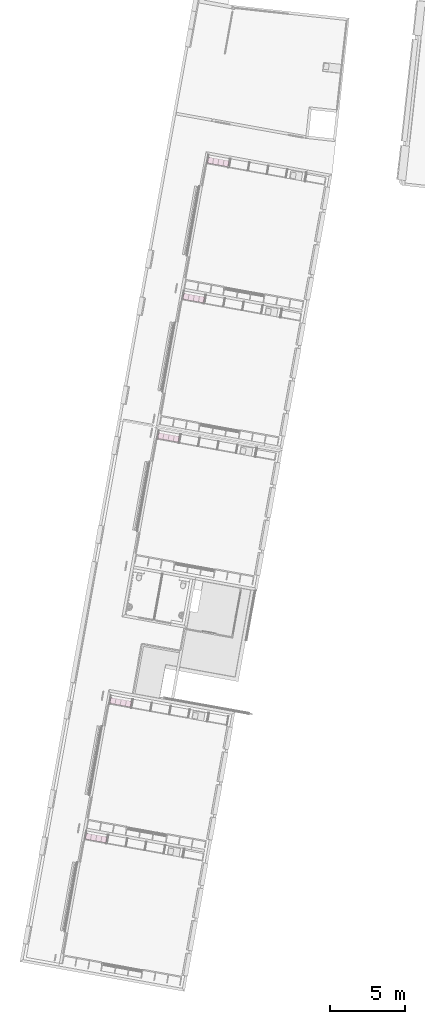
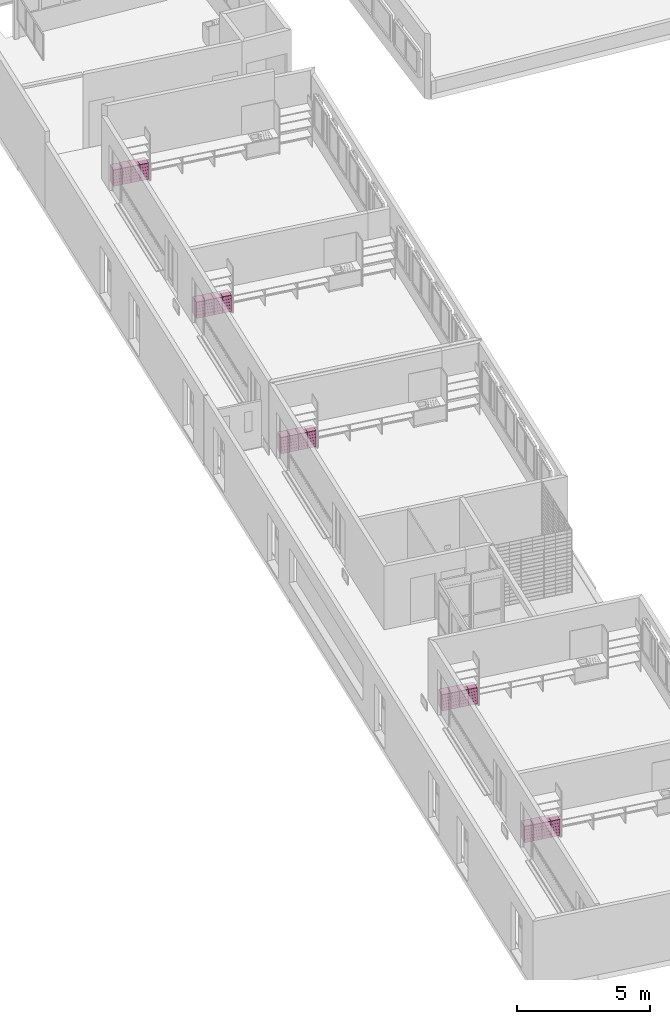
# One storey, part 7 of 52: 20 furnishings.
"""IFC2X3 building model written with IfcOpenShell, lengths in metres."""

from ifc_helpers import new_model, entity, si_unit, converted_unit, derived_unit, money_unit, direction, frame, origin_with_axes, place, context, subcontext, project, spatial, open_shell, faceted_brep, surface_model, source, transform, mapped, material, type_object, element, save


model = new_model("IFC2X3")

# Units and contexts
model_context = context("Model", 3, precision=1e-05, world=origin_with_axes(), true_north=direction((0.0, 1.0)))
body_context = subcontext(model_context, "Body", "Model", "MODEL_VIEW")
ifc_project = project(units=[si_unit("LENGTHUNIT", "METRE"), si_unit("AREAUNIT", "SQUARE_METRE"), si_unit("VOLUMEUNIT", "CUBIC_METRE"), converted_unit("PLANEANGLEUNIT", "DEGREE", entity("IfcPlaneAngleMeasure", 0.0174532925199), si_unit("PLANEANGLEUNIT", "RADIAN"), dimensions=[0, 0, 0, 0, 0, 0, 0]), money_unit("CHF"), converted_unit("TIMEUNIT", "Year", entity("IfcTimeMeasure", 31556926.0), si_unit("TIMEUNIT", "SECOND"), dimensions=[0, 0, 1, 0, 0, 0, 0]), si_unit("MASSUNIT", "GRAM", prefix="KILO"), si_unit("THERMODYNAMICTEMPERATUREUNIT", "DEGREE_CELSIUS"), si_unit("LUMINOUSINTENSITYUNIT", "LUMEN"), si_unit("ENERGYUNIT", "JOULE", prefix="MEGA"), derived_unit("THERMALCONDUCTANCEUNIT", [(si_unit("POWERUNIT", "WATT"), 1), (si_unit("LENGTHUNIT", "METRE"), -1), (si_unit("THERMODYNAMICTEMPERATUREUNIT", "KELVIN"), -1)]), derived_unit("SPECIFICHEATCAPACITYUNIT", [(si_unit("ENERGYUNIT", "JOULE"), 1), (si_unit("MASSUNIT", "GRAM", prefix="KILO"), -1), (si_unit("THERMODYNAMICTEMPERATUREUNIT", "KELVIN"), -1)]), derived_unit("MASSDENSITYUNIT", [(si_unit("MASSUNIT", "GRAM", prefix="KILO"), 1), (si_unit("VOLUMEUNIT", "CUBIC_METRE"), -1)])], contexts=[model_context])

# Site, building, storey
site_placement = place(None, frame((0.0, 0.0, 0.0), z_axis=(0.0, 0.0, 1.0), x_axis=(-0.177771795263, -0.984071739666, 0.0)))
site = spatial("IfcSite", under=ifc_project, at=site_placement, Name="Site", CompositionType="ELEMENT")
building_placement = place(site_placement, origin_with_axes())
building = spatial("IfcBuilding", under=site, at=building_placement, Name="Bâtiment", CompositionType="ELEMENT")
storey_placement = place(building_placement, frame((0.0, 0.0, 3.2), z_axis=(0.0, 0.0, 1.0), x_axis=(1.0, 0.0, 0.0)))
storey = spatial("IfcBuildingStorey", under=building, at=storey_placement, Name="R+1", CompositionType="ELEMENT", Elevation=3.2)

# Furnishings
ifc_material = material(Name="Matériau de construction IFC")
furnishing_element_type = type_object("IfcFurnishingElementType", Name="Caisson à roulettes 3 21")
shared_shape = source(origin_with_axes(), body_context, "Body", "SurfaceModel", [
    surface_model("IfcShellBasedSurfaceModel", [(0.33, 0.02, 0.0), (0.02, 0.02, 0.0), (0.02, 0.4, 0.0), (0.33, 0.4, 0.0)], [open_shell([[[0, 1, 2, 3]]])]),
    faceted_brep([(0.0, 0.4, 0.0), (0.35, 0.4, 0.0), (0.35, 0.0, 0.0), (0.0, 0.0, 0.0), (0.0, 0.4, 0.75), (0.35, 0.4, 0.75), (0.02, 0.4, 0.02), (0.33, 0.4, 0.02), (0.33, 0.4, 0.73), (0.02, 0.4, 0.73), (0.35, 0.0, 0.75), (0.0, 0.0, 0.75), (0.02, 0.0, 0.02), (0.02, 0.0, 0.73), (0.33, 0.0, 0.73), (0.33, 0.0, 0.02)], [[[0, 1, 2, 3]], [[0, 4, 5, 1], [6, 7, 8, 9]], [[1, 5, 10, 2]], [[3, 2, 10, 11], [12, 13, 14, 15]], [[4, 0, 3, 11]], [[5, 4, 11, 10]], [[7, 6, 12, 15]], [[8, 7, 15, 14]], [[9, 8, 14, 13]], [[6, 9, 13, 12]]]),
    faceted_brep([(0.33, 0.4, 0.02), (0.02, 0.4, 0.02), (0.02, 0.4, 0.73), (0.33, 0.4, 0.73), (0.33, 0.38, 0.02), (0.02, 0.38, 0.02), (0.02, 0.38, 0.73), (0.33, 0.38, 0.73)], [[[0, 1, 2, 3]], [[1, 0, 4, 5]], [[2, 1, 5, 6]], [[3, 2, 6, 7]], [[0, 3, 7, 4]], [[5, 4, 7, 6]]]),
    faceted_brep([(0.33, 0.0, 0.02), (0.02, 0.0, 0.02), (0.02, 0.38, 0.02), (0.33, 0.38, 0.02), (0.33, 0.0, 0.157), (0.02, 0.0, 0.157), (0.02, 0.38, 0.157), (0.33, 0.38, 0.157)], [[[0, 1, 2, 3]], [[1, 0, 4, 5]], [[2, 1, 5, 6]], [[3, 2, 6, 7]], [[0, 3, 7, 4]], [[5, 4, 7, 6]]]),
    faceted_brep([(0.33, 0.0, 0.162), (0.02, 0.0, 0.162), (0.02, 0.38, 0.162), (0.33, 0.38, 0.162), (0.33, 0.0, 0.299), (0.02, 0.0, 0.299), (0.02, 0.38, 0.299), (0.33, 0.38, 0.299)], [[[0, 1, 2, 3]], [[1, 0, 4, 5]], [[2, 1, 5, 6]], [[3, 2, 6, 7]], [[0, 3, 7, 4]], [[5, 4, 7, 6]]]),
    faceted_brep([(0.33, 0.0, 0.304), (0.02, 0.0, 0.304), (0.02, 0.38, 0.304), (0.33, 0.38, 0.304), (0.33, 0.0, 0.441), (0.02, 0.0, 0.441), (0.02, 0.38, 0.441), (0.33, 0.38, 0.441)], [[[0, 1, 2, 3]], [[1, 0, 4, 5]], [[2, 1, 5, 6]], [[3, 2, 6, 7]], [[0, 3, 7, 4]], [[5, 4, 7, 6]]]),
    faceted_brep([(0.33, 0.0, 0.446), (0.02, 0.0, 0.446), (0.02, 0.38, 0.446), (0.33, 0.38, 0.446), (0.33, 0.0, 0.583), (0.02, 0.0, 0.583), (0.02, 0.38, 0.583), (0.33, 0.38, 0.583)], [[[0, 1, 2, 3]], [[1, 0, 4, 5]], [[2, 1, 5, 6]], [[3, 2, 6, 7]], [[0, 3, 7, 4]], [[5, 4, 7, 6]]]),
    faceted_brep([(0.33, 0.0, 0.588), (0.02, 0.0, 0.588), (0.02, 0.38, 0.588), (0.33, 0.38, 0.588), (0.33, 0.0, 0.725), (0.02, 0.0, 0.725), (0.02, 0.38, 0.725), (0.33, 0.38, 0.725)], [[[0, 1, 2, 3]], [[1, 0, 4, 5]], [[2, 1, 5, 6]], [[3, 2, 6, 7]], [[0, 3, 7, 4]], [[5, 4, 7, 6]]]),
])
for number, where, z_axis, x_axis in (
    (1, (129.234860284, -155.699529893, 0.05), (0.0, 0.0, 1.0), (0.0, 1.0, 0.0)),
    (2, (129.234860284, -155.349529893, 0.05), (0.0, 0.0, 1.0), (0.0, 1.0, 0.0)),
    (3, (110.654860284, -156.399529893, 0.05), (0.0, 0.0, 1.0), (0.0, 1.0, 0.0)),
    (4, (110.654860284, -155.349529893, 0.05), (0.0, 0.0, 1.0), (0.0, 1.0, 0.0)),
    (5, (110.654860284, -156.049529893, 0.05), (0.0, 0.0, 1.0), (0.0, 1.0, 0.0)),
    (6, (110.654860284, -155.699529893, 0.05), (0.0, 0.0, 1.0), (0.0, 1.0, 0.0)),
    (7, (119.834860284, -156.399529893, 0.05), (0.0, 0.0, 1.0), (0.0, 1.0, 0.0)),
    (8, (119.834860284, -156.049529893, 0.05), (0.0, 0.0, 1.0), (0.0, 1.0, 0.0)),
    (9, (119.834860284, -155.699529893, 0.05), (0.0, 0.0, 1.0), (0.0, 1.0, 0.0)),
    (10, (119.834860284, -155.349529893, 0.05), (0.0, 0.0, 1.0), (0.0, 1.0, 0.0)),
    (11, (129.234860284, -156.399529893, 0.05), (0.0, 0.0, 1.0), (0.0, 1.0, 0.0)),
    (12, (129.234860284, -156.049529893, 0.05), (0.0, 0.0, 1.0), (0.0, 1.0, 0.0)),
    (13, (156.2498602, -156.049529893, 0.05), (0.0, 0.0, 1.0), (0.0, 1.0, 0.0)),
    (14, (156.2498602, -155.699529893, 0.05), (0.0, 0.0, 1.0), (0.0, 1.0, 0.0)),
    (15, (156.2498602, -155.349529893, 0.05), (0.0, 0.0, 1.0), (0.0, 1.0, 0.0)),
    (16, (156.2498602, -156.399529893, 0.05), (0.0, 0.0, 1.0), (0.0, 1.0, 0.0)),
    (17, (147.099860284, -156.399529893, 0.05), (0.0, 0.0, 1.0), (0.0, 1.0, 0.0)),
    (18, (147.099860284, -156.049529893, 0.05), (0.0, 0.0, 1.0), (0.0, 1.0, 0.0)),
    (19, (147.099860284, -155.699529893, 0.05), (0.0, 0.0, 1.0), (0.0, 1.0, 0.0)),
    (20, (147.099860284, -155.349529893, 0.05), (0.0, 0.0, 1.0), (0.0, 1.0, 0.0)),
):
    element("IfcFurnishingElement", number, at=place(storey_placement, frame(where, z_axis=z_axis, x_axis=x_axis)), inside=storey, type_object=furnishing_element_type, material=ifc_material, Name="tiroirs-classe", ObjectType="SYSTEM_FURNITURE", context=body_context, shape_type="MappedRepresentation", body=[
        mapped(shared_shape, transform((0.0, 0.0, 0.0))),
    ])

save(model, "model.ifc")
